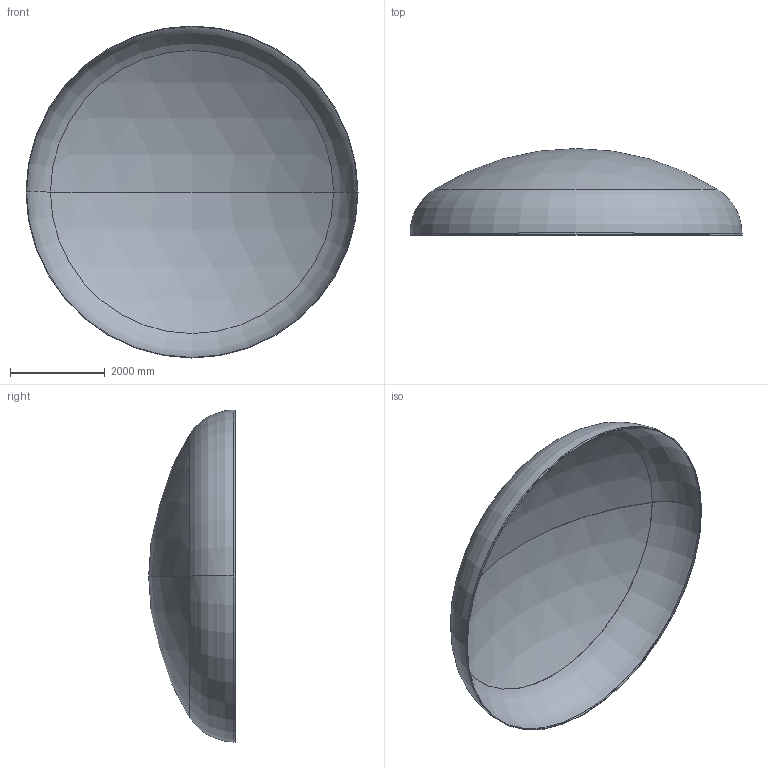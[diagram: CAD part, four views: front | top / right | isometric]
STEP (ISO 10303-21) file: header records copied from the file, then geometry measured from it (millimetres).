
FILE_DESCRIPTION (( 'STEP AP203' ), '1' );
FILE_NAME ('DIN 28013 Korbbogenform_-_Boden DIN 28013 - 7000 x 40 - I - s=11.step', '2016-07-04T10:45:04', ( '' ), ( '' ), 'SwSTEP 2.0', 'SolidWorks 2013', '' );
FILE_SCHEMA (( 'CONFIG_CONTROL_DESIGN' ));
Length unit declared in the file: millimetre
Products named in the file (1): DIN 28013 Korbbogenform_-_Boden DIN 28013 - 7000 x 40 - I - s=11
Bounding box: 7000 x 1826.46 x 7000 mm (x, y, z)
Volume: 595019408 mm3; surface area: 108427078 mm2
Topology: 1 solids, 1 shells, 13 faces, 24 edges, 14 vertices
Faces by surface type: torus 4, cylinder 4, sphere 4, plane 1
Entity records: 407 total; most frequent: DIRECTION 72, CARTESIAN_POINT 52, ORIENTED_EDGE 48, AXIS2_PLACEMENT_3D 34, EDGE_CURVE 24, CIRCLE 20, VERTEX_POINT 14, EDGE_LOOP 14
